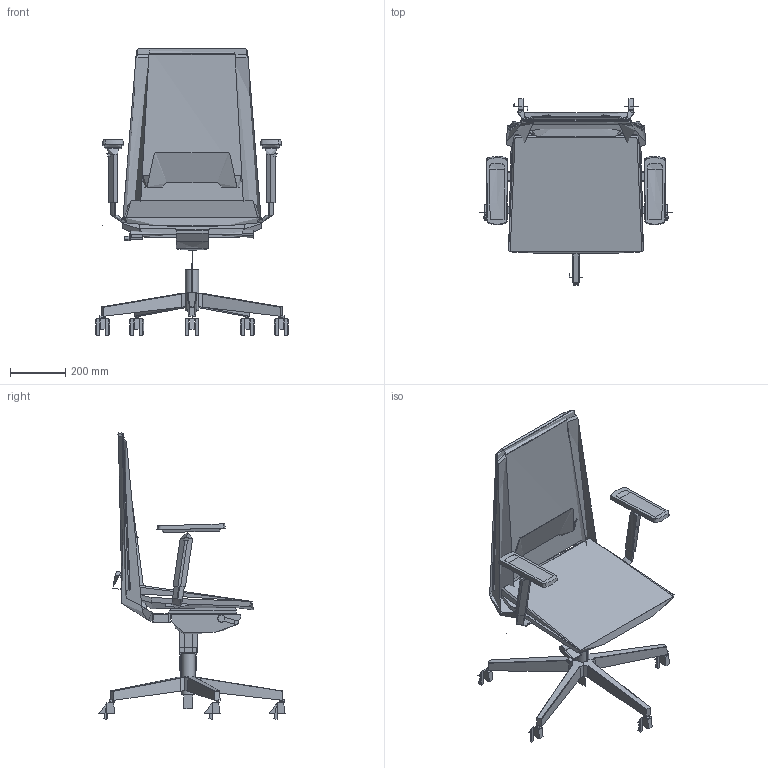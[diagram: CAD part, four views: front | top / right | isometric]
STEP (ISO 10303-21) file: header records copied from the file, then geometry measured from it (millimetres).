
FILE_DESCRIPTION(/* description */ (''),/* implementation_level */ '2;1');
FILE_NAME(/* name */ 'LOOK27~1',/* time_stamp */ '2020-02-12T11:13:35+01:00',/* author */ (''),/* organization */ (''),/* preprocessor_version */ 'ST-DEVELOPER v16.5',/* originating_system */ '',/* authorisation */ '');
FILE_SCHEMA (('AUTOMOTIVE_DESIGN'));
Length unit declared in the file: millimetre
Products named in the file (1): Document
Bounding box: 694.82 x 671.18 x 1034.99 mm (x, y, z)
Volume: 5990473.3 mm3; surface area: 2236995.4 mm2
Topology: 19 solids, 71 shells, 464 faces, 1132 edges, 717 vertices
Faces by surface type: bspline 332, plane 132
Entity records: 35904 total; most frequent: CARTESIAN_POINT 28777, ORIENTED_EDGE 1964, EDGE_CURVE 1113, VERTEX_POINT 713, B_SPLINE_CURVE_WITH_KNOTS 579, EDGE_LOOP 468, ADVANCED_FACE 464, FACE_OUTER_BOUND 464
